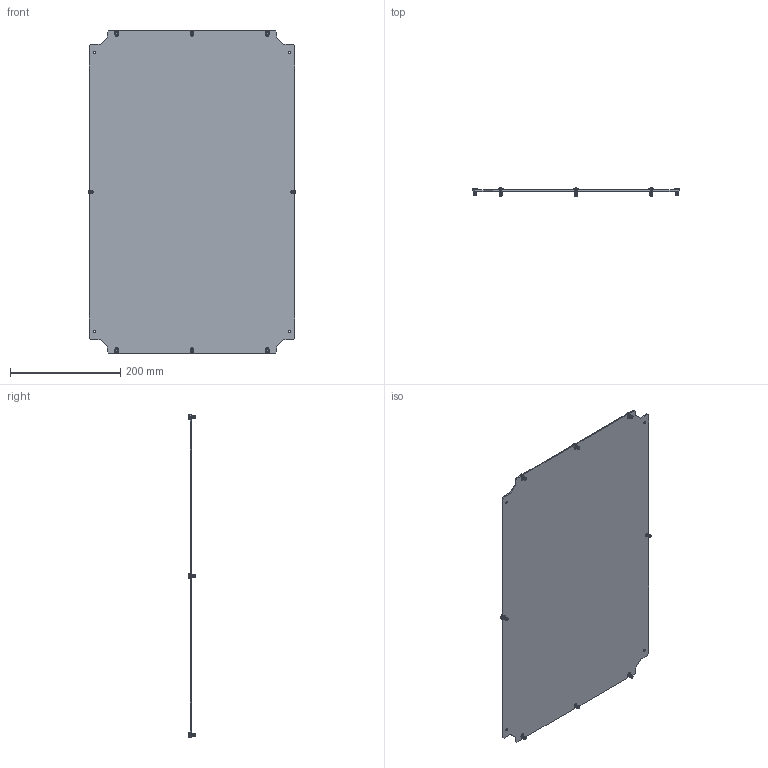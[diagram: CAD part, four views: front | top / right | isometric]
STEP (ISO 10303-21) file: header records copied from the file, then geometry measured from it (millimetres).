
FILE_DESCRIPTION (( 'STEP AP214' ), '1' );
FILE_NAME ('943.246--DM Small 400 W x 600 H Mounting Plate.STEP', '2020-12-03T10:26:11', ( '' ), ( '' ), 'SwSTEP 2.0', 'SolidWorks 2019', '' );
FILE_SCHEMA (( 'AUTOMOTIVE_DESIGN' ));
Length unit declared in the file: millimetre
Products named in the file (12): 943.246--DM Small 400 W x 600 H Mounting Plate; M5x10; DM Small Montaj Plakasi 2mm_PP 20.0111 - 400x600; M5x10_ISO 7045 - M5 x 10 - Z --- 10C; DM Small Montaj Plakasi 2mm
Assembly tree (9 placements, depth 2):
  943.246--DM Small 400 W x 600 H Mounting Plate
    DM Small Montaj Plakasi 2mm_PP 20.0111 - 400x600
    M5x10_ISO 7045 - M5 x 10 - Z --- 10C  x8
  M5x10
  M5x10
  M5x10
  M5x10
Bounding box: 376.12 x 13.63 x 585.12 mm (x, y, z)
Volume: 432312.2 mm3; surface area: 437154.5 mm2
Topology: 9 solids, 9 shells, 885 faces, 2329 edges, 1454 vertices
Faces by surface type: cone 416, cylinder 227, plane 194, torus 32, sphere 16
Entity records: 5783 total; most frequent: DIRECTION 1025, CARTESIAN_POINT 972, ORIENTED_EDGE 930, EDGE_CURVE 465, AXIS2_PLACEMENT_3D 384, VERTEX_POINT 299, VECTOR 257, LINE 257
